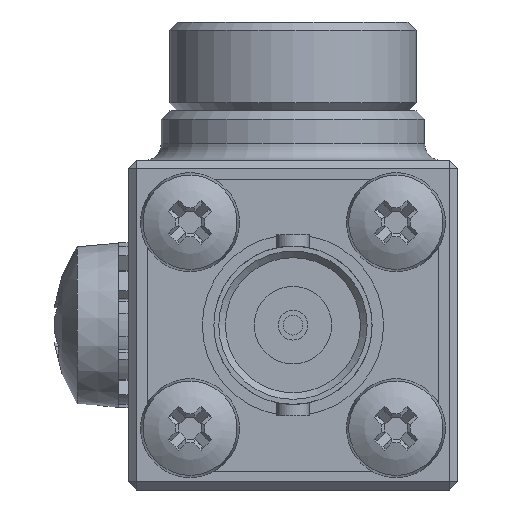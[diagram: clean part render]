
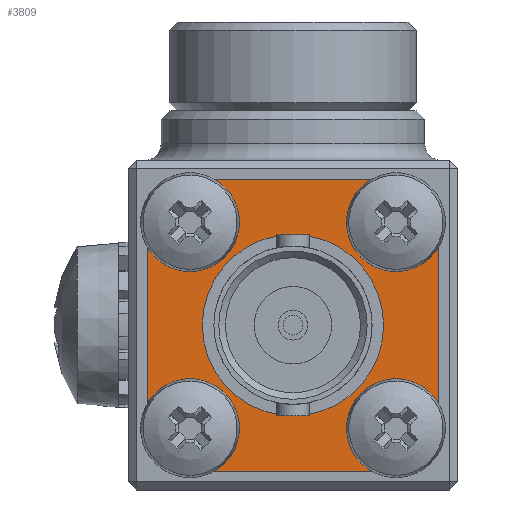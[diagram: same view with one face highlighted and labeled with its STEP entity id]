
A CAD part, front view. The second image highlights one B-rep face of the part: STEP entity #3809.
In plain terms, the highlighted planar face has unit normal (0, -1, 0) as drawn and (0, 0, -1) by its records, which use the part's own axes.
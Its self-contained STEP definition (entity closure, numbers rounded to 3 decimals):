
#194=FACE_BOUND('',#645,.T.);
#195=FACE_BOUND('',#646,.T.);
#196=FACE_BOUND('',#647,.T.);
#197=FACE_BOUND('',#648,.T.);
#198=FACE_BOUND('',#649,.T.);
#255=PLANE('',#4246);
#399=FACE_OUTER_BOUND('',#644,.T.);
#644=EDGE_LOOP('',(#2829,#2830,#2831,#2832,#2833,#2834,#2835,#2836));
#645=EDGE_LOOP('',(#2837));
#646=EDGE_LOOP('',(#2838));
#647=EDGE_LOOP('',(#2839));
#648=EDGE_LOOP('',(#2840));
#649=EDGE_LOOP('',(#2841));
#891=LINE('',#6281,#1169);
#892=LINE('',#6285,#1170);
#893=LINE('',#6289,#1171);
#894=LINE('',#6292,#1172);
#1169=VECTOR('',#4972,10.);
#1170=VECTOR('',#4975,10.);
#1171=VECTOR('',#4978,10.);
#1172=VECTOR('',#4981,10.);
#1408=CIRCLE('',#4228,5.5);
#1416=CIRCLE('',#4244,2.5);
#1418=CIRCLE('',#4247,2.5);
#1419=CIRCLE('',#4248,2.5);
#1420=CIRCLE('',#4249,2.5);
#1421=CIRCLE('',#4250,1.6);
#1422=CIRCLE('',#4251,1.6);
#1423=CIRCLE('',#4252,1.6);
#1424=CIRCLE('',#4253,1.6);
#1679=VERTEX_POINT('',#6242);
#1687=VERTEX_POINT('',#6271);
#1688=VERTEX_POINT('',#6272);
#1691=VERTEX_POINT('',#6280);
#1692=VERTEX_POINT('',#6282);
#1693=VERTEX_POINT('',#6284);
#1694=VERTEX_POINT('',#6286);
#1695=VERTEX_POINT('',#6288);
#1696=VERTEX_POINT('',#6290);
#1697=VERTEX_POINT('',#6293);
#1698=VERTEX_POINT('',#6295);
#1699=VERTEX_POINT('',#6297);
#1700=VERTEX_POINT('',#6299);
#2100=EDGE_CURVE('',#1679,#1679,#1408,.T.);
#2112=EDGE_CURVE('',#1687,#1688,#1416,.T.);
#2116=EDGE_CURVE('',#1687,#1691,#891,.T.);
#2117=EDGE_CURVE('',#1692,#1691,#1418,.T.);
#2118=EDGE_CURVE('',#1692,#1693,#892,.T.);
#2119=EDGE_CURVE('',#1694,#1693,#1419,.T.);
#2120=EDGE_CURVE('',#1694,#1695,#893,.T.);
#2121=EDGE_CURVE('',#1696,#1695,#1420,.T.);
#2122=EDGE_CURVE('',#1696,#1688,#894,.T.);
#2123=EDGE_CURVE('',#1697,#1697,#1421,.T.);
#2124=EDGE_CURVE('',#1698,#1698,#1422,.T.);
#2125=EDGE_CURVE('',#1699,#1699,#1423,.T.);
#2126=EDGE_CURVE('',#1700,#1700,#1424,.T.);
#2829=ORIENTED_EDGE('',*,*,#2112,.F.);
#2830=ORIENTED_EDGE('',*,*,#2116,.T.);
#2831=ORIENTED_EDGE('',*,*,#2117,.F.);
#2832=ORIENTED_EDGE('',*,*,#2118,.T.);
#2833=ORIENTED_EDGE('',*,*,#2119,.F.);
#2834=ORIENTED_EDGE('',*,*,#2120,.T.);
#2835=ORIENTED_EDGE('',*,*,#2121,.F.);
#2836=ORIENTED_EDGE('',*,*,#2122,.T.);
#2837=ORIENTED_EDGE('',*,*,#2100,.T.);
#2838=ORIENTED_EDGE('',*,*,#2123,.T.);
#2839=ORIENTED_EDGE('',*,*,#2124,.T.);
#2840=ORIENTED_EDGE('',*,*,#2125,.T.);
#2841=ORIENTED_EDGE('',*,*,#2126,.T.);
#3809=ADVANCED_FACE('',(#399,#194,#195,#196,#197,#198),#255,.T.);
#4228=AXIS2_PLACEMENT_3D('',#6244,#4928,#4929);
#4244=AXIS2_PLACEMENT_3D('',#6273,#4964,#4965);
#4246=AXIS2_PLACEMENT_3D('',#6279,#4970,#4971);
#4247=AXIS2_PLACEMENT_3D('',#6283,#4973,#4974);
#4248=AXIS2_PLACEMENT_3D('',#6287,#4976,#4977);
#4249=AXIS2_PLACEMENT_3D('',#6291,#4979,#4980);
#4250=AXIS2_PLACEMENT_3D('',#6294,#4982,#4983);
#4251=AXIS2_PLACEMENT_3D('',#6296,#4984,#4985);
#4252=AXIS2_PLACEMENT_3D('',#6298,#4986,#4987);
#4253=AXIS2_PLACEMENT_3D('',#6300,#4988,#4989);
#4928=DIRECTION('center_axis',(0.,0.,1.));
#4929=DIRECTION('ref_axis',(1.,0.,0.));
#4964=DIRECTION('center_axis',(0.,0.,1.));
#4965=DIRECTION('ref_axis',(-0.707,-0.707,0.));
#4970=DIRECTION('center_axis',(0.,0.,-1.));
#4971=DIRECTION('ref_axis',(-1.,0.,0.));
#4972=DIRECTION('',(0.,1.,0.));
#4973=DIRECTION('center_axis',(0.,0.,1.));
#4974=DIRECTION('ref_axis',(-0.707,0.707,0.));
#4975=DIRECTION('',(1.,0.,0.));
#4976=DIRECTION('center_axis',(0.,0.,1.));
#4977=DIRECTION('ref_axis',(0.707,0.707,0.));
#4978=DIRECTION('',(0.,-1.,0.));
#4979=DIRECTION('center_axis',(0.,0.,1.));
#4980=DIRECTION('ref_axis',(0.707,-0.707,0.));
#4981=DIRECTION('',(-1.,0.,0.));
#4982=DIRECTION('center_axis',(0.,0.,1.));
#4983=DIRECTION('ref_axis',(1.,0.,0.));
#4984=DIRECTION('center_axis',(0.,0.,1.));
#4985=DIRECTION('ref_axis',(1.,0.,0.));
#4986=DIRECTION('center_axis',(0.,0.,1.));
#4987=DIRECTION('ref_axis',(1.,0.,0.));
#4988=DIRECTION('center_axis',(0.,0.,1.));
#4989=DIRECTION('ref_axis',(1.,0.,0.));
#6242=CARTESIAN_POINT('',(-5.5,0.,-1.));
#6244=CARTESIAN_POINT('Origin',(0.,0.,-1.));
#6271=CARTESIAN_POINT('',(-8.85,-6.35,-1.));
#6272=CARTESIAN_POINT('',(-6.35,-8.85,-1.));
#6273=CARTESIAN_POINT('Origin',(-6.35,-6.35,-1.));
#6279=CARTESIAN_POINT('Origin',(0.,0.,-1.));
#6280=CARTESIAN_POINT('',(-8.85,6.35,-1.));
#6281=CARTESIAN_POINT('',(-8.85,-8.85,-1.));
#6282=CARTESIAN_POINT('',(-6.35,8.85,-1.));
#6283=CARTESIAN_POINT('Origin',(-6.35,6.35,-1.));
#6284=CARTESIAN_POINT('',(6.35,8.85,-1.));
#6285=CARTESIAN_POINT('',(-8.85,8.85,-1.));
#6286=CARTESIAN_POINT('',(8.85,6.35,-1.));
#6287=CARTESIAN_POINT('Origin',(6.35,6.35,-1.));
#6288=CARTESIAN_POINT('',(8.85,-6.35,-1.));
#6289=CARTESIAN_POINT('',(8.85,8.85,-1.));
#6290=CARTESIAN_POINT('',(6.35,-8.85,-1.));
#6291=CARTESIAN_POINT('Origin',(6.35,-6.35,-1.));
#6292=CARTESIAN_POINT('',(8.85,-8.85,-1.));
#6293=CARTESIAN_POINT('',(4.65,-6.25,-1.));
#6294=CARTESIAN_POINT('Origin',(6.25,-6.25,-1.));
#6295=CARTESIAN_POINT('',(-7.85,6.25,-1.));
#6296=CARTESIAN_POINT('Origin',(-6.25,6.25,-1.));
#6297=CARTESIAN_POINT('',(4.65,6.25,-1.));
#6298=CARTESIAN_POINT('Origin',(6.25,6.25,-1.));
#6299=CARTESIAN_POINT('',(-7.85,-6.25,-1.));
#6300=CARTESIAN_POINT('Origin',(-6.25,-6.25,-1.));
